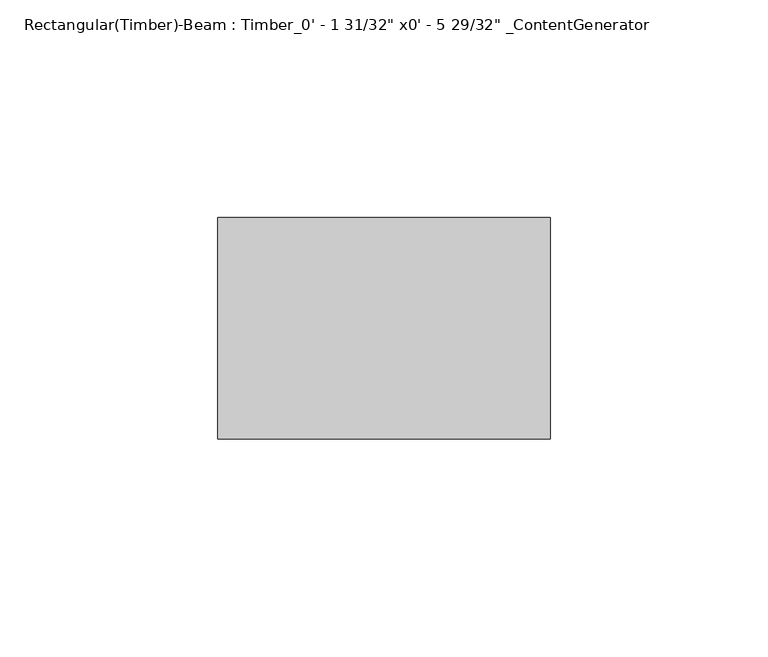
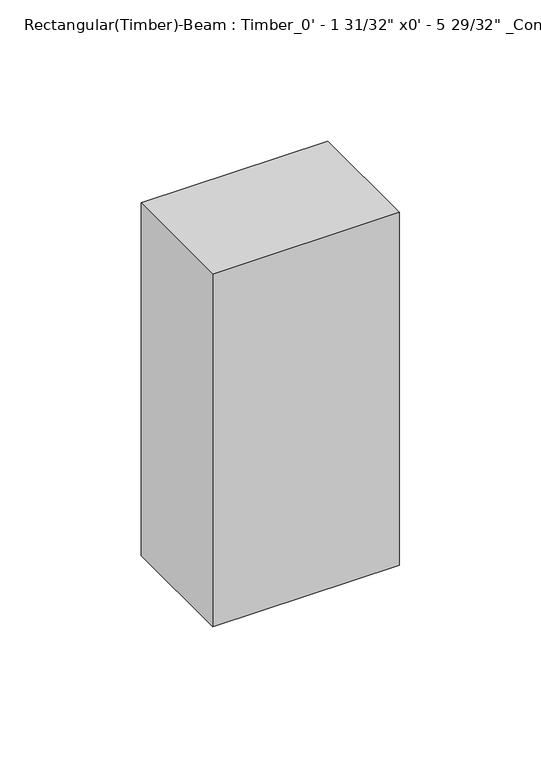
"""IFC4 building model written with IfcOpenShell, lengths in millimetres: beam geometry."""

from ifc_helpers import new_model, si_unit, frame, origin, place, context, project, spatial, polyline, outline, extrude, source, transform, mapped, element, save


def beam_1b430828(model_context):
    return source(origin(), model_context, "Body", "SweptSolid", [
        extrude(outline(polyline([(25.3949997, 25.4), (25.3949997, -25.4), (-50.7949991, -25.4), (-50.7949991, 25.4), (25.3949997, 25.4)])), frame((0.0, 0.0, -76.2), z_axis=(0.0, 0.0, 1.0), x_axis=(1.0, 0.0, 0.0)), (0.0, 0.0, 1.0), 152.4),
    ])


if __name__ == "__main__":
    model = new_model("IFC4")
    model_context = context("Model", 3, world=origin())
    ifc_project = project(units=[si_unit("LENGTHUNIT", "METRE", prefix="MILLI")], contexts=[model_context])
    site = spatial("IfcSite", under=ifc_project)
    building = spatial("IfcBuilding", under=site)
    placement = place(None, origin())
    beam_shape = beam_1b430828(model_context)
    element("IfcBeam", 1, ObjectType="Rectangular(Timber)-Beam : Timber_0' - 1 31/32\" x0' - 5 29/32\" _ContentGenerator", at=placement, inside=building, context=model_context, shape_type="MappedRepresentation", body=[
        mapped(beam_shape, transform((0.0, 0.0, 0.0), x_axis=(1.0, 0.0, 0.0), y_axis=(0.0, 1.0, 0.0), z_axis=(0.0, 0.0, 1.0))),
    ])
    save(model, "model.ifc")
